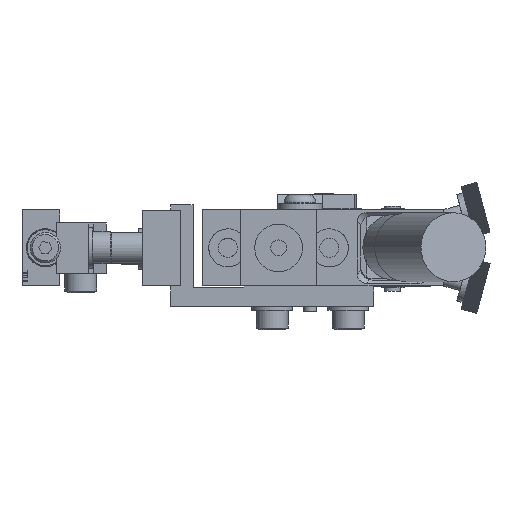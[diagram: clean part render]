
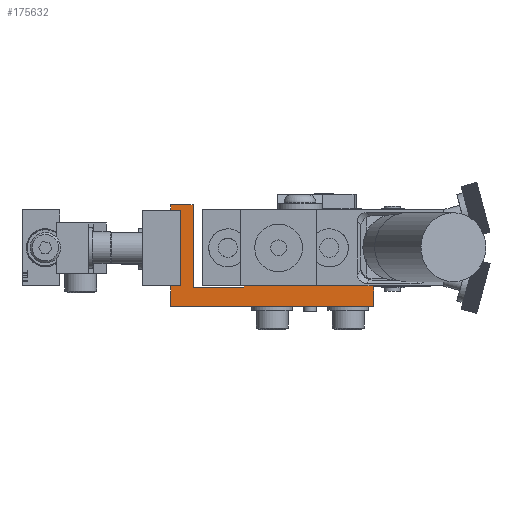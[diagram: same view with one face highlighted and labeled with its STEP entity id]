
A CAD part, left-side view. The second image highlights one B-rep face of the part: STEP entity #175632.
In plain terms, the highlighted planar face has unit normal (-1, 0, 0).
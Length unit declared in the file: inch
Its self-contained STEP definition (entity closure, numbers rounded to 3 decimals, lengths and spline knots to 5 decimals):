
#1256=CARTESIAN_POINT('',(-0.4995,1.8755,0.));
#1257=VERTEX_POINT('',#1256);
#1323=CARTESIAN_POINT('',(-0.4995,1.8755,0.745));
#1324=VERTEX_POINT('',#1323);
#2015=CARTESIAN_POINT('',(-0.4995,1.8755,0.));
#2016=DIRECTION('',(0.0,0.0,1.0));
#2017=VECTOR('',#2016,0.745);
#2018=LINE('',#2015,#2017);
#2019=EDGE_CURVE('',#1257,#1324,#2018,.T.);
#175182=CARTESIAN_POINT('',(-0.4995,1.1555,0.));
#175183=VERTEX_POINT('',#175182);
#175190=CARTESIAN_POINT('',(-0.4995,-0.1245,0.));
#175191=VERTEX_POINT('',#175190);
#175192=CARTESIAN_POINT('',(-0.4995,1.1555,0.));
#175193=DIRECTION('',(0.0,-1.0,0.0));
#175194=VECTOR('',#175193,1.28);
#175195=LINE('',#175192,#175194);
#175196=EDGE_CURVE('',#175183,#175191,#175195,.T.);
#175563=CARTESIAN_POINT('',(-0.4995,0.76361,-0.10189));
#175564=DIRECTION('',(1.0,0.0,0.0));
#175565=DIRECTION('',(0.0,-1.0,0.0));
#175566=AXIS2_PLACEMENT_3D('',#175563,#175564,#175565);
#175567=PLANE('',#175566);
#175568=CARTESIAN_POINT('',(-0.4995,1.8755,-0.2));
#175569=VERTEX_POINT('',#175568);
#175570=CARTESIAN_POINT('',(-0.4995,-0.1245,-0.2));
#175571=VERTEX_POINT('',#175570);
#175572=CARTESIAN_POINT('',(-0.4995,1.8755,-0.2));
#175573=DIRECTION('',(0.0,-1.0,0.0));
#175574=VECTOR('',#175573,2.);
#175575=LINE('',#175572,#175574);
#175576=EDGE_CURVE('',#175569,#175571,#175575,.T.);
#175577=ORIENTED_EDGE('',*,*,#175576,.T.);
#175578=CARTESIAN_POINT('',(-0.4995,-0.1245,-0.2));
#175579=DIRECTION('',(0.0,0.0,1.0));
#175580=VECTOR('',#175579,0.2);
#175581=LINE('',#175578,#175580);
#175582=EDGE_CURVE('',#175571,#175191,#175581,.T.);
#175583=ORIENTED_EDGE('',*,*,#175582,.T.);
#175584=ORIENTED_EDGE('',*,*,#175196,.F.);
#175585=CARTESIAN_POINT('',(-0.4995,1.1555,-0.015));
#175586=VERTEX_POINT('',#175585);
#175587=CARTESIAN_POINT('',(-0.4995,1.1555,0.));
#175588=DIRECTION('',(0.0,0.0,-1.0));
#175589=VECTOR('',#175588,0.015);
#175590=LINE('',#175587,#175589);
#175591=EDGE_CURVE('',#175183,#175586,#175590,.T.);
#175592=ORIENTED_EDGE('',*,*,#175591,.T.);
#175593=CARTESIAN_POINT('',(-0.4995,1.6555,-0.015));
#175594=VERTEX_POINT('',#175593);
#175595=CARTESIAN_POINT('',(-0.4995,1.1555,-0.015));
#175596=DIRECTION('',(0.0,1.0,0.0));
#175597=VECTOR('',#175596,0.5);
#175598=LINE('',#175595,#175597);
#175599=EDGE_CURVE('',#175586,#175594,#175598,.T.);
#175600=ORIENTED_EDGE('',*,*,#175599,.T.);
#175601=CARTESIAN_POINT('',(-0.4995,1.6555,0.8));
#175602=VERTEX_POINT('',#175601);
#175603=CARTESIAN_POINT('',(-0.4995,1.6555,-0.015));
#175604=DIRECTION('',(0.0,0.0,1.0));
#175605=VECTOR('',#175604,0.815);
#175606=LINE('',#175603,#175605);
#175607=EDGE_CURVE('',#175594,#175602,#175606,.T.);
#175608=ORIENTED_EDGE('',*,*,#175607,.T.);
#175609=CARTESIAN_POINT('',(-0.4995,1.8755,0.8));
#175610=VERTEX_POINT('',#175609);
#175611=CARTESIAN_POINT('',(-0.4995,1.6555,0.8));
#175612=DIRECTION('',(0.0,1.0,0.0));
#175613=VECTOR('',#175612,0.22);
#175614=LINE('',#175611,#175613);
#175615=EDGE_CURVE('',#175602,#175610,#175614,.T.);
#175616=ORIENTED_EDGE('',*,*,#175615,.T.);
#175617=CARTESIAN_POINT('',(-0.4995,1.8755,0.8));
#175618=DIRECTION('',(0.0,0.0,-1.0));
#175619=VECTOR('',#175618,0.055);
#175620=LINE('',#175617,#175619);
#175621=EDGE_CURVE('',#175610,#1324,#175620,.T.);
#175622=ORIENTED_EDGE('',*,*,#175621,.T.);
#175623=ORIENTED_EDGE('',*,*,#2019,.F.);
#175624=CARTESIAN_POINT('',(-0.4995,1.8755,0.));
#175625=DIRECTION('',(0.0,0.0,-1.0));
#175626=VECTOR('',#175625,0.2);
#175627=LINE('',#175624,#175626);
#175628=EDGE_CURVE('',#1257,#175569,#175627,.T.);
#175629=ORIENTED_EDGE('',*,*,#175628,.T.);
#175630=EDGE_LOOP('',(#175577,#175583,#175584,#175592,#175600,#175608,#175616,#175622,#175623,#175629));
#175631=FACE_OUTER_BOUND('',#175630,.T.);
#175632=ADVANCED_FACE('',(#175631),#175567,.F.);
